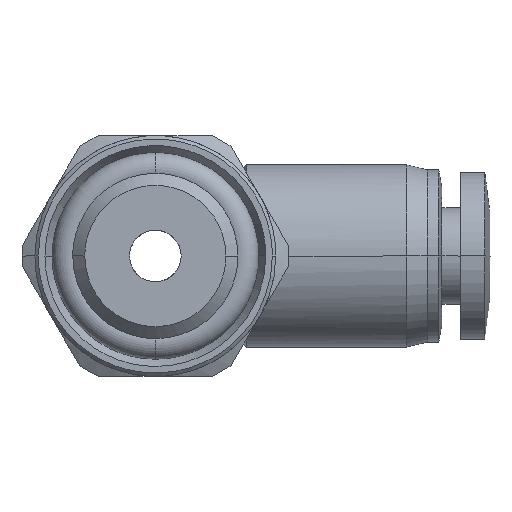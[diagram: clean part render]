
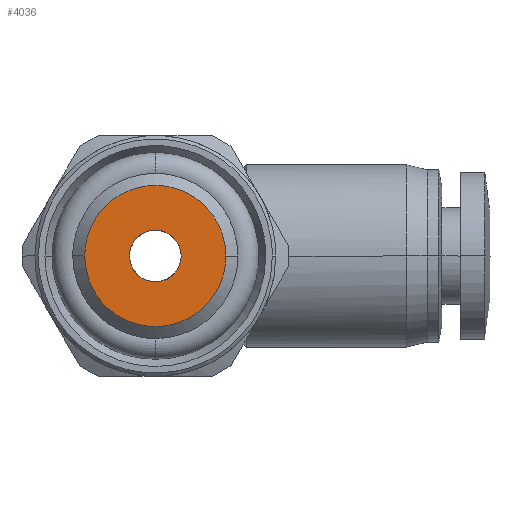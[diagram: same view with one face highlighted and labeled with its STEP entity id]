
A CAD part, front view. The second image highlights one B-rep face of the part: STEP entity #4036.
In plain terms, the highlighted planar face has unit normal (0, -1, 0).
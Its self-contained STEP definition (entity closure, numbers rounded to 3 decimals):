
#5 = CARTESIAN_POINT ( 'NONE',  ( 1.5, -10., 0.199 ) ) ;
#34 = CARTESIAN_POINT ( 'NONE',  ( 4.1, -10., 0. ) ) ;
#54 = ORIENTED_EDGE ( 'NONE', *, *, #1531, .T. ) ;
#205 = EDGE_LOOP ( 'NONE', ( #2235, #5056 ) ) ;
#329 = CARTESIAN_POINT ( 'NONE',  ( 0.391, -10., 1.462 ) ) ;
#381 = EDGE_LOOP ( 'NONE', ( #54, #2815 ) ) ;
#476 = CARTESIAN_POINT ( 'NONE',  ( -0.199, -10., -1.5 ) ) ;
#494 = CARTESIAN_POINT ( 'NONE',  ( -3.58, -10., -2.071 ) ) ;
#591 = CARTESIAN_POINT ( 'NONE',  ( -1.5, -10., -0.199 ) ) ;
#824 = CARTESIAN_POINT ( 'NONE',  ( 2.071, -10., 3.58 ) ) ;
#875 = CARTESIAN_POINT ( 'NONE',  ( 1.462, -10., 0.39 ) ) ;
#902 = CARTESIAN_POINT ( 'NONE',  ( -4.1, -10., 0.544 ) ) ;
#1025 = DIRECTION ( 'NONE',  ( 0., 0., -1. ) ) ;
#1058 = CARTESIAN_POINT ( 'NONE',  ( 1.31, -10., -0.757 ) ) ;
#1177 = CARTESIAN_POINT ( 'NONE',  ( -1.5, -10., 0. ) ) ;
#1234 = CARTESIAN_POINT ( 'NONE',  ( -0.199, -10., 1.5 ) ) ;
#1258 = CARTESIAN_POINT ( 'NONE',  ( -4.1, -10., 0. ) ) ;
#1309 = CARTESIAN_POINT ( 'NONE',  ( -0.757, -10., 1.31 ) ) ;
#1339 = CARTESIAN_POINT ( 'NONE',  ( -1.067, -10., 3.996 ) ) ;
#1367 = CARTESIAN_POINT ( 'NONE',  ( 2.515, -10., 3.283 ) ) ;
#1411 = CARTESIAN_POINT ( 'NONE',  ( 1.5, -10., 0. ) ) ;
#1442 = EDGE_CURVE ( 'NONE', #4999, #2949, #2428, .T. ) ;
#1531 = EDGE_CURVE ( 'NONE', #2949, #4999, #2931, .T. ) ;
#1647 = CARTESIAN_POINT ( 'NONE',  ( 2.515, -10., -3.283 ) ) ;
#1698 = CARTESIAN_POINT ( 'NONE',  ( -2.071, -10., -3.58 ) ) ;
#1747 = CARTESIAN_POINT ( 'NONE',  ( -2.515, -10., 3.283 ) ) ;
#1772 = CARTESIAN_POINT ( 'NONE',  ( 1.31, -10., 0.758 ) ) ;
#1868 = CARTESIAN_POINT ( 'NONE',  ( 0.757, -10., -1.31 ) ) ;
#1923 = CARTESIAN_POINT ( 'NONE',  ( 0.199, -10., -1.5 ) ) ;
#2132 = CARTESIAN_POINT ( 'NONE',  ( 4.1, -10., -0.543 ) ) ;
#2141 = VERTEX_POINT ( 'NONE', #4664 ) ;
#2156 = CARTESIAN_POINT ( 'NONE',  ( -3.58, -10., 2.071 ) ) ;
#2158 = CARTESIAN_POINT ( 'NONE',  ( 3.996, -10., -1.067 ) ) ;
#2207 = CARTESIAN_POINT ( 'NONE',  ( 0.199, -10., 1.5 ) ) ;
#2210 = CARTESIAN_POINT ( 'NONE',  ( 4.1, -10., 0.543 ) ) ;
#2235 = ORIENTED_EDGE ( 'NONE', *, *, #5504, .T. ) ;
#2304 = FACE_BOUND ( 'NONE', #205, .T. ) ;
#2306 = CARTESIAN_POINT ( 'NONE',  ( 1.462, -10., -0.391 ) ) ;
#2428 = B_SPLINE_CURVE_WITH_KNOTS ( 'NONE', 3,
 ( #34, #2210, #3581, #4808, #5741, #1367, #824, #3064, #2598, #4369, #1339, #4009, #1747, #4858, #2156, #5694, #902, #5359 ),
 .UNSPECIFIED., .F., .F.,
 ( 4, 2, 2, 2, 2, 2, 2, 2, 4 ),
 ( 0.5, 0.563, 0.625, 0.688, 0.75, 0.813, 0.875, 0.938, 1. ),
 .UNSPECIFIED. ) ;
#2488 = CARTESIAN_POINT ( 'NONE',  ( -1.067, -10., -3.996 ) ) ;
#2598 = CARTESIAN_POINT ( 'NONE',  ( 0.543, -10., 4.1 ) ) ;
#2706 = CARTESIAN_POINT ( 'NONE',  ( -4.1, -10., -0.544 ) ) ;
#2713 = PLANE ( 'NONE',  #3229 ) ;
#2715 = CARTESIAN_POINT ( 'NONE',  ( 0.92, -10., -1.201 ) ) ;
#2772 = B_SPLINE_CURVE_WITH_KNOTS ( 'NONE', 3,
 ( #4575, #5484, #2306, #1058, #4073, #2715, #1868, #3644, #1923, #476, #3238, #4022, #5424, #3207, #4986, #4546, #591, #3706 ),
 .UNSPECIFIED., .F., .F.,
 ( 4, 2, 2, 2, 2, 2, 2, 2, 4 ),
 ( 0., 0.062, 0.125, 0.187, 0.25, 0.312, 0.375, 0.437, 0.5 ),
 .UNSPECIFIED. ) ;
#2815 = ORIENTED_EDGE ( 'NONE', *, *, #1442, .T. ) ;
#2824 = CARTESIAN_POINT ( 'NONE',  ( -4.1, -10., 0. ) ) ;
#2931 = B_SPLINE_CURVE_WITH_KNOTS ( 'NONE', 3,
 ( #1258, #2706, #4479, #494, #4134, #3853, #1698, #2488, #4343, #4371, #4256, #5638, #1647, #5256, #3018, #2158, #2132, #4696 ),
 .UNSPECIFIED., .F., .F.,
 ( 4, 2, 2, 2, 2, 2, 2, 2, 4 ),
 ( 0., 0.062, 0.125, 0.187, 0.25, 0.312, 0.375, 0.437, 0.5 ),
 .UNSPECIFIED. ) ;
#2949 = VERTEX_POINT ( 'NONE', #2824 ) ;
#3013 = CARTESIAN_POINT ( 'NONE',  ( -0.92, -10., 1.201 ) ) ;
#3018 = CARTESIAN_POINT ( 'NONE',  ( 3.58, -10., -2.071 ) ) ;
#3037 = CARTESIAN_POINT ( 'NONE',  ( -1.201, -10., 0.92 ) ) ;
#3064 = CARTESIAN_POINT ( 'NONE',  ( 1.067, -10., 3.996 ) ) ;
#3207 = CARTESIAN_POINT ( 'NONE',  ( -1.201, -10., -0.92 ) ) ;
#3229 = AXIS2_PLACEMENT_3D ( 'NONE', #5447, #5011, #1025 ) ;
#3238 = CARTESIAN_POINT ( 'NONE',  ( -0.391, -10., -1.462 ) ) ;
#3473 = CARTESIAN_POINT ( 'NONE',  ( 1.5, -10., 0. ) ) ;
#3498 = CARTESIAN_POINT ( 'NONE',  ( 0.92, -10., 1.201 ) ) ;
#3501 = EDGE_CURVE ( 'NONE', #4589, #2141, #2772, .T. ) ;
#3581 = CARTESIAN_POINT ( 'NONE',  ( 3.996, -10., 1.067 ) ) ;
#3644 = CARTESIAN_POINT ( 'NONE',  ( 0.391, -10., -1.462 ) ) ;
#3706 = CARTESIAN_POINT ( 'NONE',  ( -1.5, -10., 0. ) ) ;
#3754 = CARTESIAN_POINT ( 'NONE',  ( -1.462, -10., 0.391 ) ) ;
#3853 = CARTESIAN_POINT ( 'NONE',  ( -2.515, -10., -3.283 ) ) ;
#3978 = CARTESIAN_POINT ( 'NONE',  ( 0.757, -10., 1.31 ) ) ;
#4009 = CARTESIAN_POINT ( 'NONE',  ( -2.071, -10., 3.58 ) ) ;
#4022 = CARTESIAN_POINT ( 'NONE',  ( -0.757, -10., -1.31 ) ) ;
#4036 = ADVANCED_FACE ( 'NONE', ( #2304, #4161 ), #2713, .T. ) ;
#4073 = CARTESIAN_POINT ( 'NONE',  ( 1.201, -10., -0.92 ) ) ;
#4134 = CARTESIAN_POINT ( 'NONE',  ( -3.283, -10., -2.515 ) ) ;
#4161 = FACE_OUTER_BOUND ( 'NONE', #381, .T. ) ;
#4256 = CARTESIAN_POINT ( 'NONE',  ( 1.067, -10., -3.996 ) ) ;
#4343 = CARTESIAN_POINT ( 'NONE',  ( -0.543, -10., -4.1 ) ) ;
#4369 = CARTESIAN_POINT ( 'NONE',  ( -0.543, -10., 4.1 ) ) ;
#4371 = CARTESIAN_POINT ( 'NONE',  ( 0.543, -10., -4.1 ) ) ;
#4479 = CARTESIAN_POINT ( 'NONE',  ( -3.996, -10., -1.067 ) ) ;
#4546 = CARTESIAN_POINT ( 'NONE',  ( -1.462, -10., -0.391 ) ) ;
#4575 = CARTESIAN_POINT ( 'NONE',  ( 1.5, -10., 0. ) ) ;
#4589 = VERTEX_POINT ( 'NONE', #1411 ) ;
#4664 = CARTESIAN_POINT ( 'NONE',  ( -1.5, -10., 0. ) ) ;
#4696 = CARTESIAN_POINT ( 'NONE',  ( 4.1, -10., 0. ) ) ;
#4808 = CARTESIAN_POINT ( 'NONE',  ( 3.58, -10., 2.071 ) ) ;
#4831 = CARTESIAN_POINT ( 'NONE',  ( -0.391, -10., 1.462 ) ) ;
#4856 = CARTESIAN_POINT ( 'NONE',  ( 1.201, -10., 0.92 ) ) ;
#4858 = CARTESIAN_POINT ( 'NONE',  ( -3.283, -10., 2.515 ) ) ;
#4896 = B_SPLINE_CURVE_WITH_KNOTS ( 'NONE', 3,
 ( #1177, #5505, #3754, #5276, #3037, #3013, #1309, #4831, #1234, #2207, #329, #3978, #3498, #4856, #1772, #875, #5, #3473 ),
 .UNSPECIFIED., .F., .F.,
 ( 4, 2, 2, 2, 2, 2, 2, 2, 4 ),
 ( 0.5, 0.563, 0.625, 0.688, 0.75, 0.813, 0.875, 0.938, 1. ),
 .UNSPECIFIED. ) ;
#4902 = CARTESIAN_POINT ( 'NONE',  ( 4.1, -10., 0. ) ) ;
#4986 = CARTESIAN_POINT ( 'NONE',  ( -1.31, -10., -0.757 ) ) ;
#4999 = VERTEX_POINT ( 'NONE', #4902 ) ;
#5011 = DIRECTION ( 'NONE',  ( 0., -1., 0. ) ) ;
#5056 = ORIENTED_EDGE ( 'NONE', *, *, #3501, .T. ) ;
#5256 = CARTESIAN_POINT ( 'NONE',  ( 3.283, -10., -2.515 ) ) ;
#5276 = CARTESIAN_POINT ( 'NONE',  ( -1.31, -10., 0.757 ) ) ;
#5359 = CARTESIAN_POINT ( 'NONE',  ( -4.1, -10., 0. ) ) ;
#5424 = CARTESIAN_POINT ( 'NONE',  ( -0.92, -10., -1.201 ) ) ;
#5447 = CARTESIAN_POINT ( 'NONE',  ( -2.05, -10., 0. ) ) ;
#5484 = CARTESIAN_POINT ( 'NONE',  ( 1.5, -10., -0.199 ) ) ;
#5504 = EDGE_CURVE ( 'NONE', #2141, #4589, #4896, .T. ) ;
#5505 = CARTESIAN_POINT ( 'NONE',  ( -1.5, -10., 0.199 ) ) ;
#5638 = CARTESIAN_POINT ( 'NONE',  ( 2.071, -10., -3.58 ) ) ;
#5694 = CARTESIAN_POINT ( 'NONE',  ( -3.996, -10., 1.067 ) ) ;
#5741 = CARTESIAN_POINT ( 'NONE',  ( 3.283, -10., 2.515 ) ) ;
